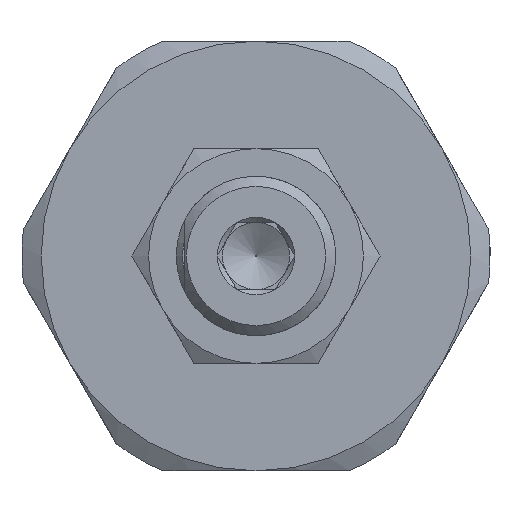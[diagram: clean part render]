
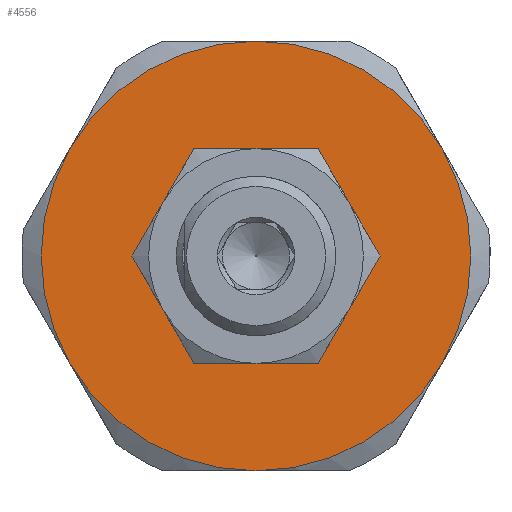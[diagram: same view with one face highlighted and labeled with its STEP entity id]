
A CAD part, left-side view. The second image highlights one B-rep face of the part: STEP entity #4556.
In plain terms, the highlighted planar face has unit normal (-1, 0, 0).
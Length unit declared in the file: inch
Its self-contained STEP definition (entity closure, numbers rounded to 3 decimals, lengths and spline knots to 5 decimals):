
#2763=CARTESIAN_POINT('',(-1.,0.21651,1.125));
#2764=VERTEX_POINT('',#2763);
#2778=CARTESIAN_POINT('',(-1.,0.,1.25));
#2779=VERTEX_POINT('',#2778);
#2793=CARTESIAN_POINT('',(-1.,0.,1.));
#2794=DIRECTION('',(1.0,0.0,0.0));
#2795=DIRECTION('',(0.0,0.0,1.0));
#2796=AXIS2_PLACEMENT_3D('',#2793,#2794,#2795);
#2797=CIRCLE('',#2796,0.25);
#2798=EDGE_CURVE('',#2764,#2779,#2797,.T.);
#2810=CARTESIAN_POINT('',(-1.,0.21651,0.875));
#2811=VERTEX_POINT('',#2810);
#2838=CARTESIAN_POINT('',(-1.,0.,1.));
#2839=DIRECTION('',(1.0,0.0,0.0));
#2840=DIRECTION('',(0.0,0.0,1.0));
#2841=AXIS2_PLACEMENT_3D('',#2838,#2839,#2840);
#2842=CIRCLE('',#2841,0.25);
#2843=EDGE_CURVE('',#2811,#2764,#2842,.T.);
#2855=CARTESIAN_POINT('',(-1.,0.,0.75));
#2856=VERTEX_POINT('',#2855);
#2883=CARTESIAN_POINT('',(-1.,0.,1.));
#2884=DIRECTION('',(1.0,0.0,0.0));
#2885=DIRECTION('',(0.0,0.0,1.0));
#2886=AXIS2_PLACEMENT_3D('',#2883,#2884,#2885);
#2887=CIRCLE('',#2886,0.25);
#2888=EDGE_CURVE('',#2856,#2811,#2887,.T.);
#2913=CARTESIAN_POINT('',(-1.,-0.21651,0.875));
#2914=VERTEX_POINT('',#2913);
#2915=CARTESIAN_POINT('',(-1.,0.,1.));
#2916=DIRECTION('',(1.0,0.0,0.0));
#2917=DIRECTION('',(0.0,0.0,1.0));
#2918=AXIS2_PLACEMENT_3D('',#2915,#2916,#2917);
#2919=CIRCLE('',#2918,0.25);
#2920=EDGE_CURVE('',#2914,#2856,#2919,.T.);
#2958=CARTESIAN_POINT('',(-1.,-0.21651,1.125));
#2959=VERTEX_POINT('',#2958);
#2960=CARTESIAN_POINT('',(-1.,0.,1.));
#2961=DIRECTION('',(1.0,0.0,0.0));
#2962=DIRECTION('',(0.0,0.0,1.0));
#2963=AXIS2_PLACEMENT_3D('',#2960,#2961,#2962);
#2964=CIRCLE('',#2963,0.25);
#2965=EDGE_CURVE('',#2959,#2914,#2964,.T.);
#3003=CARTESIAN_POINT('',(-1.,0.,1.));
#3004=DIRECTION('',(1.0,0.0,0.0));
#3005=DIRECTION('',(0.0,0.0,1.0));
#3006=AXIS2_PLACEMENT_3D('',#3003,#3004,#3005);
#3007=CIRCLE('',#3006,0.25);
#3008=EDGE_CURVE('',#2779,#2959,#3007,.T.);
#4487=CARTESIAN_POINT('',(-1.,0.,1.));
#4488=DIRECTION('',(1.0,0.0,0.0));
#4489=DIRECTION('',(0.0,0.0,-1.0));
#4490=AXIS2_PLACEMENT_3D('',#4487,#4488,#4489);
#4491=PLANE('',#4490);
#4492=CARTESIAN_POINT('',(-1.,-0.43301,1.25));
#4493=VERTEX_POINT('',#4492);
#4494=CARTESIAN_POINT('',(-1.,0.,1.5));
#4495=VERTEX_POINT('',#4494);
#4496=CARTESIAN_POINT('',(-1.,0.,1.));
#4497=DIRECTION('',(-1.0,0.0,0.0));
#4498=DIRECTION('',(0.0,1.0,0.0));
#4499=AXIS2_PLACEMENT_3D('',#4496,#4497,#4498);
#4500=CIRCLE('',#4499,0.5);
#4501=EDGE_CURVE('',#4493,#4495,#4500,.T.);
#4502=ORIENTED_EDGE('',*,*,#4501,.T.);
#4503=CARTESIAN_POINT('',(-1.,0.43301,1.25));
#4504=VERTEX_POINT('',#4503);
#4505=CARTESIAN_POINT('',(-1.,0.,1.));
#4506=DIRECTION('',(-1.0,0.0,0.0));
#4507=DIRECTION('',(0.0,1.0,0.0));
#4508=AXIS2_PLACEMENT_3D('',#4505,#4506,#4507);
#4509=CIRCLE('',#4508,0.5);
#4510=EDGE_CURVE('',#4495,#4504,#4509,.T.);
#4511=ORIENTED_EDGE('',*,*,#4510,.T.);
#4512=CARTESIAN_POINT('',(-1.,0.43301,0.75));
#4513=VERTEX_POINT('',#4512);
#4514=CARTESIAN_POINT('',(-1.,0.,1.));
#4515=DIRECTION('',(-1.0,0.0,0.0));
#4516=DIRECTION('',(0.0,1.0,0.0));
#4517=AXIS2_PLACEMENT_3D('',#4514,#4515,#4516);
#4518=CIRCLE('',#4517,0.5);
#4519=EDGE_CURVE('',#4504,#4513,#4518,.T.);
#4520=ORIENTED_EDGE('',*,*,#4519,.T.);
#4521=CARTESIAN_POINT('',(-1.,0.,0.5));
#4522=VERTEX_POINT('',#4521);
#4523=CARTESIAN_POINT('',(-1.,0.,1.));
#4524=DIRECTION('',(-1.0,0.0,0.0));
#4525=DIRECTION('',(0.0,1.0,0.0));
#4526=AXIS2_PLACEMENT_3D('',#4523,#4524,#4525);
#4527=CIRCLE('',#4526,0.5);
#4528=EDGE_CURVE('',#4513,#4522,#4527,.T.);
#4529=ORIENTED_EDGE('',*,*,#4528,.T.);
#4530=CARTESIAN_POINT('',(-1.,-0.43301,0.75));
#4531=VERTEX_POINT('',#4530);
#4532=CARTESIAN_POINT('',(-1.,0.,1.));
#4533=DIRECTION('',(-1.0,0.0,0.0));
#4534=DIRECTION('',(0.0,1.0,0.0));
#4535=AXIS2_PLACEMENT_3D('',#4532,#4533,#4534);
#4536=CIRCLE('',#4535,0.5);
#4537=EDGE_CURVE('',#4522,#4531,#4536,.T.);
#4538=ORIENTED_EDGE('',*,*,#4537,.T.);
#4539=CARTESIAN_POINT('',(-1.,0.,1.));
#4540=DIRECTION('',(-1.0,0.0,0.0));
#4541=DIRECTION('',(0.0,1.0,0.0));
#4542=AXIS2_PLACEMENT_3D('',#4539,#4540,#4541);
#4543=CIRCLE('',#4542,0.5);
#4544=EDGE_CURVE('',#4531,#4493,#4543,.T.);
#4545=ORIENTED_EDGE('',*,*,#4544,.T.);
#4546=EDGE_LOOP('',(#4502,#4511,#4520,#4529,#4538,#4545));
#4547=FACE_OUTER_BOUND('',#4546,.T.);
#4548=ORIENTED_EDGE('',*,*,#2798,.T.);
#4549=ORIENTED_EDGE('',*,*,#3008,.T.);
#4550=ORIENTED_EDGE('',*,*,#2965,.T.);
#4551=ORIENTED_EDGE('',*,*,#2920,.T.);
#4552=ORIENTED_EDGE('',*,*,#2888,.T.);
#4553=ORIENTED_EDGE('',*,*,#2843,.T.);
#4554=EDGE_LOOP('',(#4548,#4549,#4550,#4551,#4552,#4553));
#4555=FACE_BOUND('',#4554,.T.);
#4556=ADVANCED_FACE('',(#4547,#4555),#4491,.F.);
